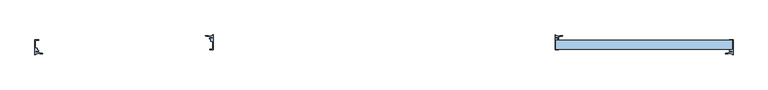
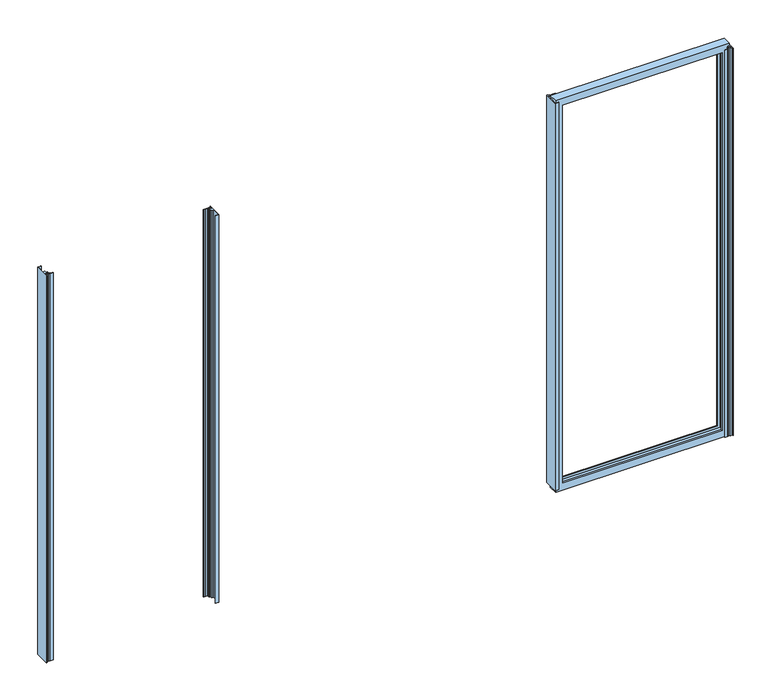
"""IFC4 building model written with IfcOpenShell, lengths in millimetres: window geometry, XL_XHS-9-3E_Metaglas : XL_XHS-9-3E_Metaglas."""

from ifc_helpers import new_model, si_unit, frame, origin, place, context, project, spatial, polyline, outline, extrude, faceted_brep, source, transform, mapped, element, save


def window_81968e4f(model_context):
    return source(origin(), model_context, "Body", "SolidModel", [
        extrude(outline(polyline([(-1985.3, 97.4013391), (-1964.8, 97.4013391), (-1964.8, 95.1013391), (-1982.8, 95.1013391), (-1982.8, 47.6019821), (-1971.8000067, 47.6019821), (-1971.8000067, 35.6013279), (-1967.0005713, 35.6013279), (-1963.4498741, 33.5513319), (-1965.4998669, 31.5013391), (-1982.8, 31.5013391), (-1982.8, 26.2013391), (-1965.499867, 26.2013391), (-1963.5, 24.1995849), (-1953.0, 20.1013391), (-1944.8044864, 20.1013391), (-1940.4743594, 17.6013391), (-1957.499867, 17.6013391), (-1965.499867, 21.1013391), (-1972.55, 21.1013391), (-1972.55, 17.6013391), (-1982.8, 17.6013391), (-1982.8, 12.4013279), (-1985.3, 12.4013279), (-1985.3, 97.4013391)])), frame((0.0, 0.0, 66.6), z_axis=(0.0, 0.0, 1.0), x_axis=(1.0, 0.0, 0.0)), (0.0, 0.0, 1.0), 2368.4),
        extrude(outline(polyline([(-970.6, 39.2013168), (-991.1, 39.2013168), (-991.1, 41.5013168), (-973.1, 41.5013168), (-973.1, 89.0006738), (-984.0999933, 89.0006738), (-984.0999933, 101.0013279), (-988.8994287, 101.0013279), (-992.4501259, 103.0513239), (-990.4001331, 105.1013168), (-973.1, 105.1013168), (-973.1, 110.4013168), (-990.400133, 110.4013168), (-992.4, 112.403071), (-1002.9, 116.5013168), (-1011.0955136, 116.5013168), (-1015.4256406, 119.0013168), (-998.400133, 119.0013168), (-990.400133, 115.5013168), (-983.35, 115.5013168), (-983.35, 119.0013168), (-973.1, 119.0013168), (-973.1, 124.2013279), (-970.6, 124.2013279), (-970.6, 39.2013168)])), frame((0.0, 0.0, 66.6), z_axis=(0.0, 0.0, 1.0), x_axis=(1.0, 0.0, 0.0)), (0.0, 0.0, 1.0), 2368.4),
        faceted_brep([(977.25, 42.3013279, 53.3), (977.25, 94.3013279, 53.3), (1980.85, 94.3013279, 53.3), (1980.85, 42.3013279, 53.3), (1980.85, 94.3013279, 2448.3), (1980.85, 42.3013279, 2448.3), (977.25, 94.3013279, 2448.3), (1938.85, 94.3013279, 2406.3), (1019.25, 94.3013279, 2406.3), (1019.25, 94.3013279, 95.3), (1938.85, 94.3013279, 95.3), (977.25, 42.3013279, 2448.3), (1938.85, 42.3013279, 95.3), (1019.25, 42.3013279, 95.3), (1019.25, 42.3013279, 2406.3), (1938.85, 42.3013279, 2406.3), (1019.25, 52.8013279, 95.3), (1938.85, 52.8013279, 95.3), (1938.85, 52.8013279, 2406.3), (1952.55, 52.8013279, 81.6), (1005.55, 52.8013279, 81.6), (1005.55, 52.8013279, 2420.0), (1952.55, 52.8013279, 2420.0), (1019.25, 52.8013279, 2406.3), (1005.55, 88.3013279, 81.6), (1952.55, 88.3013279, 81.6), (1952.55, 88.3013279, 2420.0), (1005.55, 88.3013279, 2420.0), (1938.85, 88.3013279, 95.3), (1019.25, 88.3013279, 95.3), (1019.25, 88.3013279, 2406.3), (1938.85, 88.3013279, 2406.3)], [[[0, 1, 2, 3]], [[3, 2, 4, 5]], [[2, 1, 6, 4], [7, 8, 9, 10]], [[5, 11, 0, 3], [12, 13, 14, 15]], [[16, 13, 12, 17]], [[17, 12, 15, 18]], [[19, 20, 21, 22], [18, 23, 16, 17]], [[24, 20, 19, 25]], [[25, 19, 22, 26]], [[26, 27, 24, 25], [28, 29, 30, 31]], [[9, 29, 28, 10]], [[10, 28, 31, 7]], [[11, 6, 1, 0]], [[23, 14, 13, 16]], [[27, 21, 20, 24]], [[8, 30, 29, 9]], [[5, 4, 6, 11]], [[18, 15, 14, 23]], [[26, 22, 21, 27]], [[7, 31, 30, 8]]]),
        extrude(outline(polyline([(1985.3, 97.4013391), (1985.3, 12.4013279), (1982.8, 12.4013279), (1982.8, 17.6013391), (1972.55, 17.6013391), (1972.55, 21.1013391), (1965.499867, 21.1013391), (1957.499867, 17.6013391), (1940.4743594, 17.6013391), (1944.8044864, 20.1013391), (1953.0, 20.1013391), (1963.5, 24.1995849), (1965.499867, 26.2013391), (1982.8, 26.2013391), (1982.8, 31.5013391), (1965.4998669, 31.5013391), (1963.4498741, 33.5513319), (1967.0005713, 35.6013279), (1971.8000067, 35.6013279), (1971.8000067, 47.6019821), (1982.8, 47.6019821), (1982.8, 95.1013391), (1964.8, 95.1013391), (1964.8, 97.4013391), (1985.3, 97.4013391)])), frame((0.0, 0.0, 66.6), z_axis=(0.0, 0.0, 1.0), x_axis=(1.0, 0.0, 0.0)), (0.0, 0.0, 1.0), 2368.4),
        extrude(outline(polyline([(972.8, 39.2013168), (972.8, 124.2013279), (975.3, 124.2013279), (975.3, 119.0013168), (985.55, 119.0013168), (985.55, 115.5013168), (992.600133, 115.5013168), (1000.600133, 119.0013168), (1017.6256406, 119.0013168), (1013.2955136, 116.5013168), (1005.1, 116.5013168), (994.6, 112.403071), (992.600133, 110.4013168), (975.3, 110.4013168), (975.3, 105.1013168), (992.6001331, 105.1013168), (994.6501259, 103.0513239), (991.0994287, 101.0013279), (986.2999933, 101.0013279), (986.2999933, 89.0006738), (975.3, 89.0006738), (975.3, 41.5013168), (993.3, 41.5013168), (993.3, 39.2013168), (972.8, 39.2013168)])), frame((0.0, 0.0, 66.6), z_axis=(0.0, 0.0, 1.0), x_axis=(1.0, 0.0, 0.0)), (0.0, 0.0, 1.0), 2368.4),
    ])


if __name__ == "__main__":
    model = new_model("IFC4")
    model_context = context("Model", 3, world=origin())
    ifc_project = project(units=[si_unit("LENGTHUNIT", "METRE", prefix="MILLI")], contexts=[model_context])
    site = spatial("IfcSite", under=ifc_project)
    building = spatial("IfcBuilding", under=site)
    placement = place(None, origin())
    window_shape = window_81968e4f(model_context)
    element("IfcWindow", 1, ObjectType="XL_XHS-9-3E_Metaglas : XL_XHS-9-3E_Metaglas", at=placement, inside=building, context=model_context, shape_type="MappedRepresentation", body=[
        mapped(window_shape, transform((0.0, 0.0, 0.0), x_axis=(1.0, 0.0, 0.0), y_axis=(0.0, 1.0, 0.0), z_axis=(0.0, 0.0, 1.0))),
    ])
    save(model, "model.ifc")
